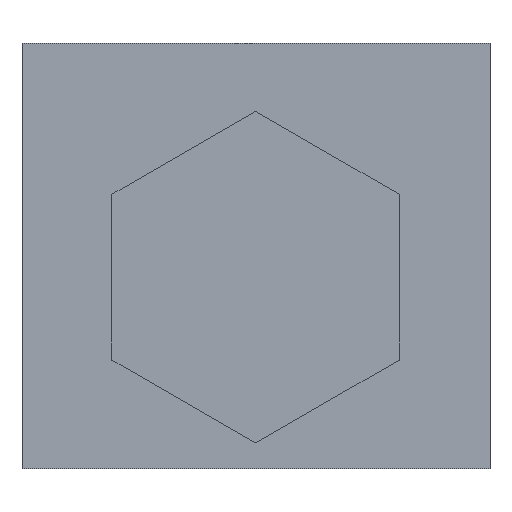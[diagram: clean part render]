
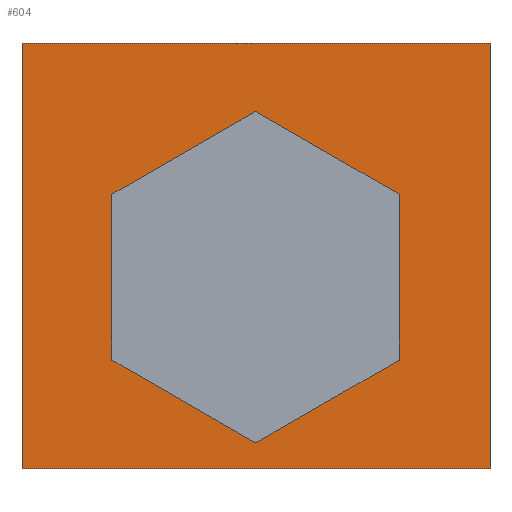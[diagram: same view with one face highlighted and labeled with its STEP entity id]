
A CAD part, front view. The second image highlights one B-rep face of the part: STEP entity #604.
In plain terms, the highlighted planar face has unit normal (0, -1, 0).
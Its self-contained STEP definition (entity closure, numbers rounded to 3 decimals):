
#2 = LINE ( 'NONE', #1241, #323 ) ;
#31 = VECTOR ( 'NONE', #1953, 1000. ) ;
#34 = VECTOR ( 'NONE', #2053, 1000. ) ;
#36 = EDGE_CURVE ( 'NONE', #97, #1327, #453, .T. ) ;
#47 = PLANE ( 'NONE',  #408 ) ;
#97 = VERTEX_POINT ( 'NONE', #635 ) ;
#120 = VERTEX_POINT ( 'NONE', #1425 ) ;
#195 = LINE ( 'NONE', #1514, #1037 ) ;
#272 = VECTOR ( 'NONE', #1724, 1000. ) ;
#284 = ORIENTED_EDGE ( 'NONE', *, *, #1677, .F. ) ;
#301 = CARTESIAN_POINT ( 'NONE',  ( 8.459, 0., -14.197 ) ) ;
#315 = LINE ( 'NONE', #532, #2059 ) ;
#317 = LINE ( 'NONE', #301, #272 ) ;
#323 = VECTOR ( 'NONE', #1393, 1000. ) ;
#326 = CARTESIAN_POINT ( 'NONE',  ( 21.959, 0., -6.403 ) ) ;
#402 = FACE_OUTER_BOUND ( 'NONE', #934, .T. ) ;
#408 = AXIS2_PLACEMENT_3D ( 'NONE', #1465, #986, #1944 ) ;
#409 = DIRECTION ( 'NONE',  ( 1., 0., 0. ) ) ;
#418 = CARTESIAN_POINT ( 'NONE',  ( 0., 0., -40. ) ) ;
#419 = LINE ( 'NONE', #326, #1730 ) ;
#453 = LINE ( 'NONE', #1409, #34 ) ;
#498 = VECTOR ( 'NONE', #691, 1000. ) ;
#532 = CARTESIAN_POINT ( 'NONE',  ( 35.459, 0., -29.786 ) ) ;
#538 = CARTESIAN_POINT ( 'NONE',  ( 0., 0., 0. ) ) ;
#565 = CARTESIAN_POINT ( 'NONE',  ( 0., 0., 0. ) ) ;
#568 = CARTESIAN_POINT ( 'NONE',  ( 35.459, 0., -29.786 ) ) ;
#579 = VECTOR ( 'NONE', #1792, 1000. ) ;
#583 = EDGE_CURVE ( 'NONE', #1416, #97, #1296, .T. ) ;
#587 = EDGE_CURVE ( 'NONE', #1595, #1928, #873, .T. ) ;
#604 = ADVANCED_FACE ( 'NONE', ( #402, #820 ), #47, .T. ) ;
#635 = CARTESIAN_POINT ( 'NONE',  ( 44., 0., -40. ) ) ;
#691 = DIRECTION ( 'NONE',  ( 0., 0., 1. ) ) ;
#700 = CARTESIAN_POINT ( 'NONE',  ( 44., 0., 0. ) ) ;
#740 = VERTEX_POINT ( 'NONE', #1421 ) ;
#820 = FACE_BOUND ( 'NONE', #1800, .T. ) ;
#836 = DIRECTION ( 'NONE',  ( 0.866, 0., -0.5 ) ) ;
#841 = EDGE_CURVE ( 'NONE', #877, #120, #2, .T. ) ;
#873 = LINE ( 'NONE', #1319, #1244 ) ;
#877 = VERTEX_POINT ( 'NONE', #1079 ) ;
#906 = ORIENTED_EDGE ( 'NONE', *, *, #1148, .F. ) ;
#934 = EDGE_LOOP ( 'NONE', ( #1009, #1059, #1542, #1899 ) ) ;
#950 = CARTESIAN_POINT ( 'NONE',  ( 8.459, 0., -29.786 ) ) ;
#986 = DIRECTION ( 'NONE',  ( 0., -1., 0. ) ) ;
#991 = LINE ( 'NONE', #1477, #579 ) ;
#1003 = CARTESIAN_POINT ( 'NONE',  ( 21.959, 0., -37.58 ) ) ;
#1009 = ORIENTED_EDGE ( 'NONE', *, *, #1419, .F. ) ;
#1023 = VERTEX_POINT ( 'NONE', #568 ) ;
#1037 = VECTOR ( 'NONE', #409, 1000. ) ;
#1059 = ORIENTED_EDGE ( 'NONE', *, *, #36, .F. ) ;
#1068 = ORIENTED_EDGE ( 'NONE', *, *, #587, .F. ) ;
#1079 = CARTESIAN_POINT ( 'NONE',  ( 35.459, 0., -14.197 ) ) ;
#1148 = EDGE_CURVE ( 'NONE', #1928, #1023, #991, .T. ) ;
#1241 = CARTESIAN_POINT ( 'NONE',  ( 35.459, 0., -14.197 ) ) ;
#1244 = VECTOR ( 'NONE', #836, 1000. ) ;
#1279 = DIRECTION ( 'NONE',  ( -0.866, 0., -0.5 ) ) ;
#1296 = LINE ( 'NONE', #1757, #31 ) ;
#1319 = CARTESIAN_POINT ( 'NONE',  ( 8.459, 0., -29.786 ) ) ;
#1327 = VERTEX_POINT ( 'NONE', #418 ) ;
#1393 = DIRECTION ( 'NONE',  ( -0.866, 0., 0.5 ) ) ;
#1409 = CARTESIAN_POINT ( 'NONE',  ( 0., 0., -40. ) ) ;
#1416 = VERTEX_POINT ( 'NONE', #700 ) ;
#1419 = EDGE_CURVE ( 'NONE', #1327, #1941, #1815, .T. ) ;
#1421 = CARTESIAN_POINT ( 'NONE',  ( 8.459, 0., -14.197 ) ) ;
#1425 = CARTESIAN_POINT ( 'NONE',  ( 21.959, 0., -6.403 ) ) ;
#1448 = ORIENTED_EDGE ( 'NONE', *, *, #1580, .F. ) ;
#1465 = CARTESIAN_POINT ( 'NONE',  ( 0., 0., -40. ) ) ;
#1475 = DIRECTION ( 'NONE',  ( 0., 0., 1. ) ) ;
#1477 = CARTESIAN_POINT ( 'NONE',  ( 21.959, 0., -37.58 ) ) ;
#1514 = CARTESIAN_POINT ( 'NONE',  ( 0., 0., 0. ) ) ;
#1542 = ORIENTED_EDGE ( 'NONE', *, *, #583, .F. ) ;
#1580 = EDGE_CURVE ( 'NONE', #120, #740, #419, .T. ) ;
#1590 = ORIENTED_EDGE ( 'NONE', *, *, #841, .F. ) ;
#1595 = VERTEX_POINT ( 'NONE', #950 ) ;
#1677 = EDGE_CURVE ( 'NONE', #740, #1595, #317, .T. ) ;
#1724 = DIRECTION ( 'NONE',  ( 0., 0., -1. ) ) ;
#1730 = VECTOR ( 'NONE', #1279, 1000. ) ;
#1757 = CARTESIAN_POINT ( 'NONE',  ( 44., 0., 0. ) ) ;
#1792 = DIRECTION ( 'NONE',  ( 0.866, 0., 0.5 ) ) ;
#1800 = EDGE_LOOP ( 'NONE', ( #906, #1068, #284, #1448, #1590, #1955 ) ) ;
#1815 = LINE ( 'NONE', #538, #498 ) ;
#1890 = EDGE_CURVE ( 'NONE', #1941, #1416, #195, .T. ) ;
#1899 = ORIENTED_EDGE ( 'NONE', *, *, #1890, .F. ) ;
#1928 = VERTEX_POINT ( 'NONE', #1003 ) ;
#1941 = VERTEX_POINT ( 'NONE', #565 ) ;
#1944 = DIRECTION ( 'NONE',  ( 0., 0., -1. ) ) ;
#1953 = DIRECTION ( 'NONE',  ( 0., 0., -1. ) ) ;
#1955 = ORIENTED_EDGE ( 'NONE', *, *, #2060, .F. ) ;
#2053 = DIRECTION ( 'NONE',  ( -1., 0., 0. ) ) ;
#2059 = VECTOR ( 'NONE', #1475, 1000. ) ;
#2060 = EDGE_CURVE ( 'NONE', #1023, #877, #315, .T. ) ;
